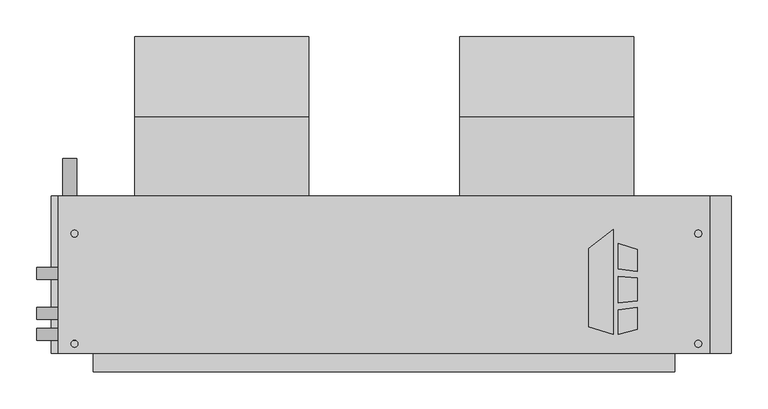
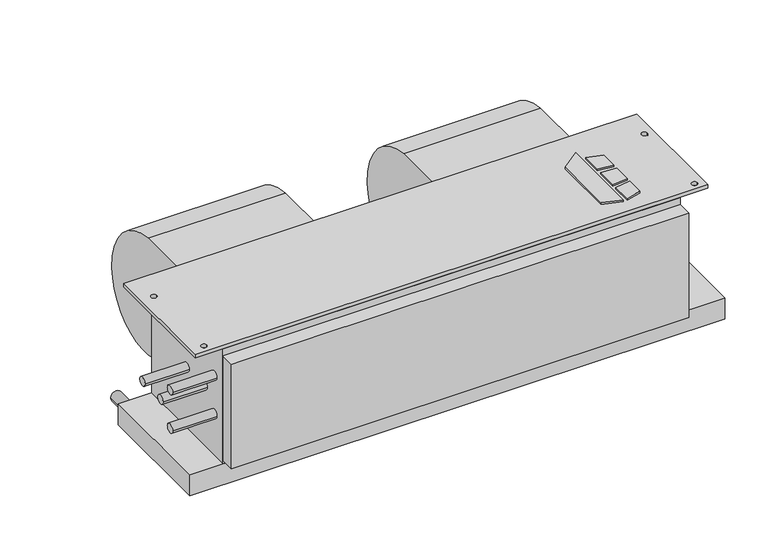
"""IFC4 building model written with IfcOpenShell, lengths in millimetres: proxy geometry, Concealed_Horizontal_Fan_Coil_Unit_-_CHY_-_IEC_-_4-Pipe_LH_2022 : Size 06 - 277v/60Hz/1Ph - 4/1 Coil."""

from ifc_helpers import new_model, si_unit, point, frame, frame_2d, origin, origin_with_axes, place, context, project, spatial, polyline, circle_curve, trimmed, segment, composite_curve, outline, extrude, source, transform, mapped, element, save


def mechanical_equipment_28c986cc(model_context):
    return source(origin(), model_context, "Body", "SweptSolid", [
        extrude(outline(polyline([(429.9019761, -202.5703476), (462.4602728, -177.1330184), (462.4602728, -319.0875), (429.9019761, -308.8679201), (429.9019761, -202.5703476)])), origin_with_axes(), (0.0, 0.0, 1.0), 3.175),
        extrude(outline(polyline([(469.2186058, -230.442352), (469.2186058, -195.9624379), (495.3, -204.1490115), (495.3, -233.6447446), (469.2186058, -230.442352)])), origin_with_axes(), (0.0, 0.0, 1.0), 3.175),
        extrude(outline(polyline([(495.3, -312.0990115), (469.2186058, -319.0875), (469.2186058, -285.8661996), (495.3, -282.3243564), (495.3, -312.0990115)])), origin_with_axes(), (0.0, 0.0, 1.0), 3.175),
        extrude(outline(polyline([(495.3, -242.7263277), (495.3, -273.976483), (469.2186058, -276.717748), (469.2186058, -240.8600378), (495.3, -242.7263277)])), origin_with_axes(), (0.0, 0.0, 1.0), 3.175),
        extrude(outline(composite_curve([segment(trimmed(circle_curve(frame_2d((-33.198831, -136.0299844)), 117.3559541), [point((-23.8125, -19.05))], [point((84.1375, -138.176))], False, "CARTESIAN"), True, "CONTINUOUS"), segment(trimmed(circle_curve(frame_2d((-11.5977337, -136.4250563)), 95.7512443), [point((84.1375, -138.176))], [point((-23.8125, -231.394))], False, "CARTESIAN"), True, "CONTINUOUS"), segment(trimmed(circle_curve(frame_2d((-11.6288131, -136.6666968)), 95.5076133), [point((-23.8125, -231.394))], [point((-107.1245, -138.176))], False, "CARTESIAN"), True, "CONTINUOUS"), segment(trimmed(circle_curve(frame_2d((-126.2059828, -138.4775816)), 19.0838659), [point((-107.1245, -138.176))], [point((-119.3963373, -120.65))], True, "CARTESIAN"), True, "CONTINUOUS"), segment(polyline([(-119.3963373, -120.65), (-131.7625, -120.65), (-131.7625, -19.05), (-23.8125, -19.05)]), True, "CONTINUOUS")], self_intersect=False)), frame((254.8255, 0.0, 0.0), z_axis=(1.0, 0.0, 0.0), x_axis=(0.0, 1.0, 0.0)), (0.0, 0.0, 1.0), 235.712),
        extrude(outline(composite_curve([segment(trimmed(circle_curve(frame_2d((-33.198831, -136.0299844)), 117.3559541), [point((-23.8125, -19.05))], [point((84.1375, -138.176))], False, "CARTESIAN"), True, "CONTINUOUS"), segment(trimmed(circle_curve(frame_2d((-11.5977337, -136.4250563)), 95.7512443), [point((84.1375, -138.176))], [point((-23.8125, -231.394))], False, "CARTESIAN"), True, "CONTINUOUS"), segment(trimmed(circle_curve(frame_2d((-11.6288131, -136.6666968)), 95.5076133), [point((-23.8125, -231.394))], [point((-107.1245, -138.176))], False, "CARTESIAN"), True, "CONTINUOUS"), segment(trimmed(circle_curve(frame_2d((-126.2059828, -138.4775816)), 19.0838659), [point((-107.1245, -138.176))], [point((-119.3963373, -120.65))], True, "CARTESIAN"), True, "CONTINUOUS"), segment(polyline([(-119.3963373, -120.65), (-131.7625, -120.65), (-131.7625, -19.05), (-23.8125, -19.05)]), True, "CONTINUOUS")], self_intersect=False)), frame((-184.912, 0.0, 0.0), z_axis=(1.0, 0.0, 0.0), x_axis=(0.0, 1.0, 0.0)), (0.0, 0.0, 1.0), 235.712),
        extrude(outline(polyline([(593.725, -131.7625), (593.725, -344.4875), (-288.925, -344.4875), (-288.925, -131.7625), (593.725, -131.7625)]), holes=[composite_curve([segment(trimmed(circle_curve(frame_2d((-266.7, -182.5625)), 4.7625), [point((-271.4625, -182.5625))], [point((-261.9375, -182.5625))], True, "CARTESIAN"), True, "CONTINUOUS"), segment(trimmed(circle_curve(frame_2d((-266.7, -182.5625)), 4.7625), [point((-261.9375, -182.5625))], [point((-271.4625, -182.5625))], True, "CARTESIAN"), True, "CONTINUOUS")], self_intersect=False), composite_curve([segment(trimmed(circle_curve(frame_2d((-266.7, -331.7875)), 4.7625), [point((-271.4625, -331.7875))], [point((-261.9375, -331.7875))], True, "CARTESIAN"), True, "CONTINUOUS"), segment(trimmed(circle_curve(frame_2d((-266.7, -331.7875)), 4.7625), [point((-261.9375, -331.7875))], [point((-271.4625, -331.7875))], True, "CARTESIAN"), True, "CONTINUOUS")], self_intersect=False), composite_curve([segment(trimmed(circle_curve(frame_2d((577.85, -182.5625)), 4.7625), [point((573.0875, -182.5625))], [point((582.6125, -182.5625))], True, "CARTESIAN"), True, "CONTINUOUS"), segment(trimmed(circle_curve(frame_2d((577.85, -182.5625)), 4.7625), [point((582.6125, -182.5625))], [point((573.0875, -182.5625))], True, "CARTESIAN"), True, "CONTINUOUS")], self_intersect=False), composite_curve([segment(trimmed(circle_curve(frame_2d((577.85, -331.7875)), 4.7625), [point((573.0875, -331.7875))], [point((582.6125, -331.7875))], True, "CARTESIAN"), True, "CONTINUOUS"), segment(trimmed(circle_curve(frame_2d((577.85, -331.7875)), 4.7625), [point((582.6125, -331.7875))], [point((573.0875, -331.7875))], True, "CARTESIAN"), True, "CONTINUOUS")], self_intersect=False)]), frame((0.0, 0.0, -6.35), z_axis=(0.0, 0.0, 1.0), x_axis=(1.0, 0.0, 0.0)), (0.0, 0.0, 1.0), 6.35),
        extrude(outline(composite_curve([segment(trimmed(circle_curve(frame_2d((-241.3, -273.05)), 9.525), [point((-241.3, -282.575))], [point((-241.3, -263.525))], False, "CARTESIAN"), True, "CONTINUOUS"), segment(trimmed(circle_curve(frame_2d((-241.3, -273.05)), 9.525), [point((-241.3, -263.525))], [point((-241.3, -282.575))], False, "CARTESIAN"), True, "CONTINUOUS")], self_intersect=False)), frame((0.0, -131.7625, 0.0), z_axis=(0.0, 1.0, 0.0), x_axis=(0.0, 0.0, 1.0)), (0.0, 0.0, 1.0), 50.8),
        extrude(outline(polyline([(546.1, -369.8875), (-241.3, -369.8875), (-241.3, -344.4875), (546.1, -344.4875), (546.1, -369.8875)])), frame((0.0, 0.0, -209.55), z_axis=(0.0, 0.0, 1.0), x_axis=(1.0, 0.0, 0.0)), (0.0, 0.0, 1.0), 190.5),
        extrude(outline(polyline([(622.3, -131.7625), (622.3, -344.4875), (-298.45, -344.4875), (-298.45, -131.7625), (622.3, -131.7625)])), frame((0.0, 0.0, -254.0), z_axis=(0.0, 0.0, 1.0), x_axis=(1.0, 0.0, 0.0)), (0.0, 0.0, 1.0), 38.1),
        extrude(outline(composite_curve([segment(trimmed(circle_curve(frame_2d((-236.5375, -104.775)), 7.9375), [point((-228.6, -104.775))], [point((-244.475, -104.775))], False, "CARTESIAN"), True, "CONTINUOUS"), segment(trimmed(circle_curve(frame_2d((-236.5375, -104.775)), 7.9375), [point((-244.475, -104.775))], [point((-228.6, -104.775))], False, "CARTESIAN"), True, "CONTINUOUS")], self_intersect=False)), frame((-317.5, 0.0, 0.0), z_axis=(1.0, 0.0, 0.0), x_axis=(0.0, 1.0, 0.0)), (0.0, 0.0, 1.0), 76.2),
        extrude(outline(composite_curve([segment(trimmed(circle_curve(frame_2d((-290.5125, -104.775)), 7.9375), [point((-282.575, -104.775))], [point((-298.45, -104.775))], False, "CARTESIAN"), True, "CONTINUOUS"), segment(trimmed(circle_curve(frame_2d((-290.5125, -104.775)), 7.9375), [point((-298.45, -104.775))], [point((-282.575, -104.775))], False, "CARTESIAN"), True, "CONTINUOUS")], self_intersect=False)), frame((-317.5, 0.0, 0.0), z_axis=(1.0, 0.0, 0.0), x_axis=(0.0, 1.0, 0.0)), (0.0, 0.0, 1.0), 76.2),
        extrude(outline(composite_curve([segment(trimmed(circle_curve(frame_2d((-319.0875, -69.85)), 7.9375), [point((-311.15, -69.85))], [point((-327.025, -69.85))], False, "CARTESIAN"), True, "CONTINUOUS"), segment(trimmed(circle_curve(frame_2d((-319.0875, -69.85)), 7.9375), [point((-327.025, -69.85))], [point((-311.15, -69.85))], False, "CARTESIAN"), True, "CONTINUOUS")], self_intersect=False)), frame((-317.5, 0.0, 0.0), z_axis=(1.0, 0.0, 0.0), x_axis=(0.0, 1.0, 0.0)), (0.0, 0.0, 1.0), 76.2),
        extrude(outline(composite_curve([segment(trimmed(circle_curve(frame_2d((-319.0875, -139.7)), 7.9375), [point((-311.15, -139.7))], [point((-327.025, -139.7))], False, "CARTESIAN"), True, "CONTINUOUS"), segment(trimmed(circle_curve(frame_2d((-319.0875, -139.7)), 7.9375), [point((-327.025, -139.7))], [point((-311.15, -139.7))], False, "CARTESIAN"), True, "CONTINUOUS")], self_intersect=False)), frame((-317.5, 0.0, 0.0), z_axis=(1.0, 0.0, 0.0), x_axis=(0.0, 1.0, 0.0)), (0.0, 0.0, 1.0), 76.2),
        extrude(outline(polyline([(546.1, -344.4875), (-241.3, -344.4875), (-241.3, -131.7625), (546.1, -131.7625), (546.1, -344.4875)])), frame((0.0, 0.0, -215.9), z_axis=(0.0, 0.0, 1.0), x_axis=(1.0, 0.0, 0.0)), (0.0, 0.0, 1.0), 209.55),
    ])


if __name__ == "__main__":
    model = new_model("IFC4")
    model_context = context("Model", 3, world=origin())
    ifc_project = project(units=[si_unit("LENGTHUNIT", "METRE", prefix="MILLI")], contexts=[model_context])
    site = spatial("IfcSite", under=ifc_project)
    building = spatial("IfcBuilding", under=site)
    placement = place(None, origin())
    mechanical_equipment_shape = mechanical_equipment_28c986cc(model_context)
    element("IfcBuildingElementProxy", 1, Name="Concealed_Horizontal_Fan_Coil_Unit_-_CHY_-_IEC_-_4-Pipe_LH_2022 : Size 06 - 277v/60Hz/1Ph - 4/1 Coil", ObjectType="Concealed_Horizontal_Fan_Coil_Unit_-_CHY_-_IEC_-_4-Pipe_LH_2022 : Size 06 - 277v/60Hz/1Ph - 4/1 Coil", at=placement, inside=building, context=model_context, shape_type="MappedRepresentation", body=[
        mapped(mechanical_equipment_shape, transform((0.0, 0.0, 0.0), x_axis=(1.0, 0.0, 0.0), y_axis=(0.0, 1.0, 0.0), z_axis=(0.0, 0.0, 1.0))),
    ])
    save(model, "model.ifc")
